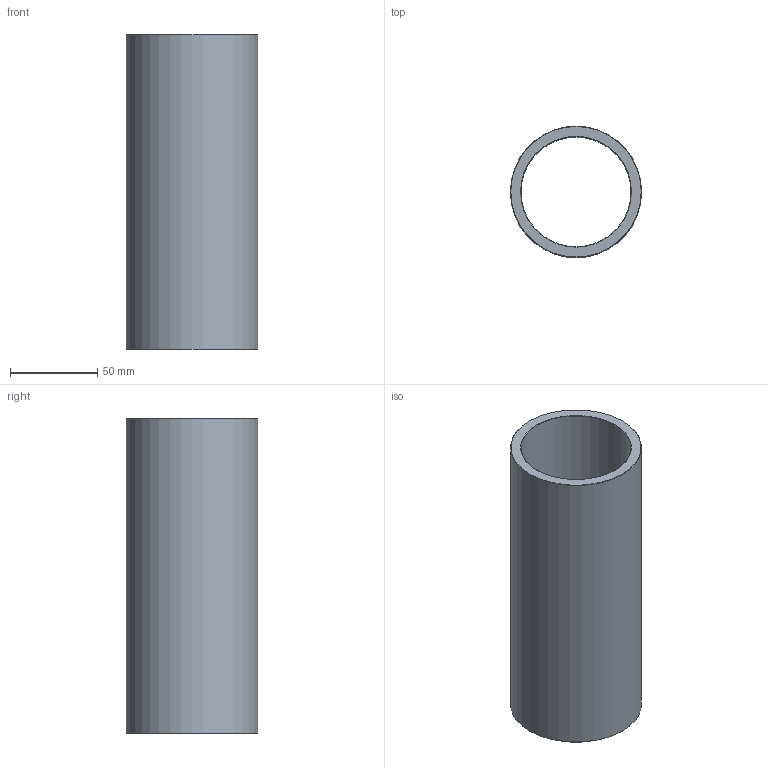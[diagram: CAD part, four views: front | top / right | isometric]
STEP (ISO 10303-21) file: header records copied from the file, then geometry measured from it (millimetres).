
FILE_DESCRIPTION(('STEP AP203'),'1');
FILE_NAME('C:/Users/Rodrigo/Desktop/GA6.063.180-1.step','2016-11-08T14:40:43',(' '),(' '),'Spatial InterOp 3D',' ',' ');
FILE_SCHEMA(('CONFIG_CONTROL_DESIGN'));
Length unit declared in the file: millimetre
Products named in the file (1): 1
Bounding box: 75 x 75 x 180 mm (x, y, z)
Volume: 234094.1 mm3; surface area: 80536.8 mm2
Topology: 1 solids, 1 shells, 8 faces, 14 edges, 8 vertices
Faces by surface type: cone 4, cylinder 2, plane 2
Full cylindrical faces by diameter (mm): 63 x1, 75 x1
Entity records: 212 total; most frequent: DIRECTION 34, CARTESIAN_POINT 25, AXIS2_PLACEMENT_3D 17, EDGE_LOOP 16, ORIENTED_EDGE 16, FACE_OUTER_BOUND 10, ADVANCED_FACE 8, EDGE_CURVE 8
